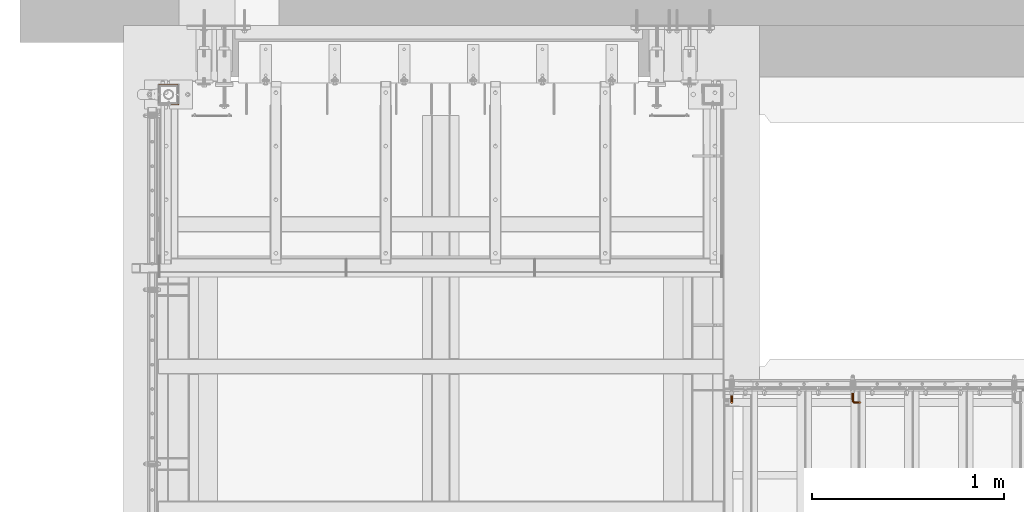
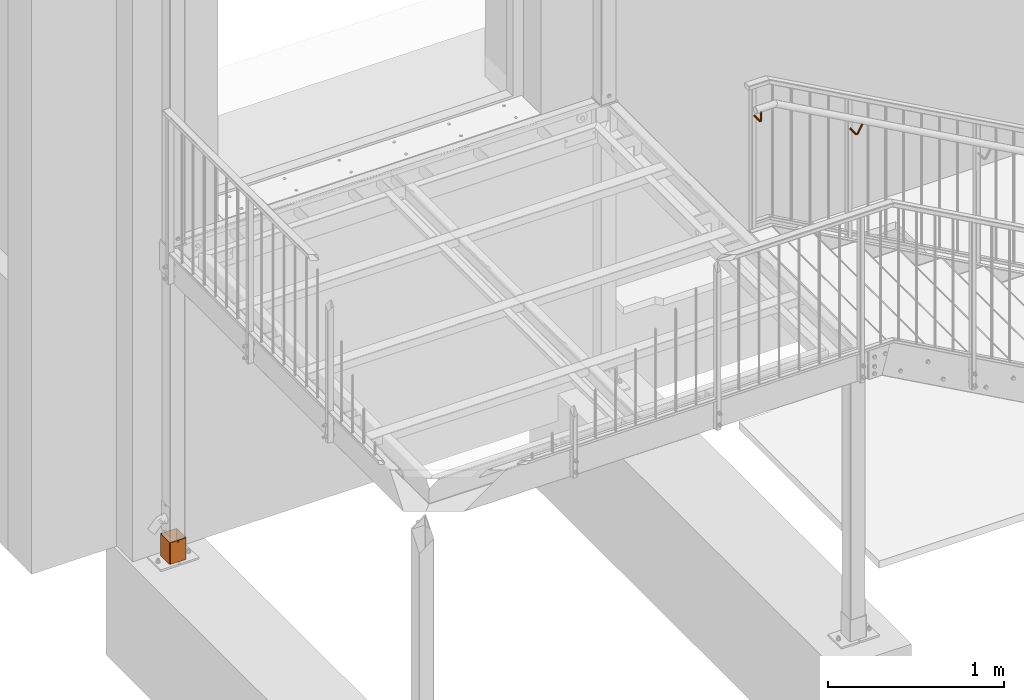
# One storey, part 92 of 116: 3 proxies.
"""IFC2X3 building model written with IfcOpenShell, lengths in millimetres."""

from ifc_helpers import new_model, entity, si_unit, converted_unit, origin_with_axes, place, context, project, spatial, faceted_brep, material, element, save


model = new_model("IFC2X3")

# Units and contexts
model_context = context("Model", 3, precision=1e-09, world=origin_with_axes())
ifc_project = project(units=[si_unit("LENGTHUNIT", "METRE", prefix="MILLI"), si_unit("AREAUNIT", "SQUARE_METRE"), si_unit("VOLUMEUNIT", "CUBIC_METRE"), converted_unit("PLANEANGLEUNIT", "DEGREE", entity("IfcPlaneAngleMeasure", 0.01745329), si_unit("PLANEANGLEUNIT", "RADIAN"), dimensions=[0, 0, 0, 0, 0, 0, 0])], contexts=[model_context])

# Site, building, storey
site_placement = place(None, origin_with_axes())
site = spatial("IfcSite", under=ifc_project, at=site_placement, Name="Site", CompositionType="ELEMENT")
building_placement = place(site_placement, origin_with_axes())
building = spatial("IfcBuilding", under=site, at=building_placement, Name="Struktur 1", CompositionType="ELEMENT")
storey_placement = place(building_placement, origin_with_axes())
storey = spatial("IfcBuildingStorey", under=building, at=storey_placement, Name="Default Storey", CompositionType="ELEMENT", Elevation=0.0)

# Proxies
ifc_material = material(Name="Kein")
proxy_1_placement = place(None, origin_with_axes())
element("IfcBuildingElementProxy", 1, at=proxy_1_placement, inside=storey, material=ifc_material, ObjectType="-", context=model_context, shape_type="Brep", body=[
    faceted_brep([(55283.120931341, 12013.358883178, -2185.0), (55283.120931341, 12013.358883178, -2035.0), (55286.049134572, 12016.287086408, -2035.0), (55286.049134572, 12016.287086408, -2185.0), (55282.049134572, 12009.358883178, -2035.0), (55282.049134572, 11915.358883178, -2035.0), (55283.120931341, 11911.358883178, -2035.0), (55286.049134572, 11908.430679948, -2035.0), (55290.049134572, 11907.358883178, -2035.0), (55384.049134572, 11907.358883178, -2035.0), (55388.049134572, 11908.430679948, -2035.0), (55390.977337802, 11911.358883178, -2035.0), (55392.049134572, 11915.358883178, -2035.0), (55392.049134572, 12009.358883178, -2035.0), (55390.977337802, 12013.358883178, -2035.0), (55388.049134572, 12016.287086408, -2035.0), (55384.049134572, 12017.358883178, -2035.0), (55290.049134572, 12017.358883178, -2035.0), (55286.049134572, 12009.358883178, -2035.0), (55286.585032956, 12011.358883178, -2035.0), (55288.049134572, 12012.822984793, -2035.0), (55290.049134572, 12013.358883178, -2035.0), (55384.049134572, 12013.358883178, -2035.0), (55386.049134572, 12012.822984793, -2035.0), (55387.513236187, 12011.358883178, -2035.0), (55388.049134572, 12009.358883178, -2035.0), (55388.049134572, 11915.358883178, -2035.0), (55387.513236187, 11913.358883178, -2035.0), (55386.049134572, 11911.894781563, -2035.0), (55384.049134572, 11911.358883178, -2035.0), (55290.049134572, 11911.358883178, -2035.0), (55288.049134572, 11911.894781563, -2035.0), (55286.585032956, 11913.358883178, -2035.0), (55286.049134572, 11915.358883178, -2035.0), (55288.049134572, 12012.822984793, -2185.0), (55286.585032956, 12011.358883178, -2185.0), (55282.049134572, 11915.358883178, -2185.0), (55282.049134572, 12009.358883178, -2185.0), (55290.049134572, 12017.358883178, -2185.0), (55384.049134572, 12017.358883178, -2185.0), (55388.049134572, 12016.287086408, -2185.0), (55390.977337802, 12013.358883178, -2185.0), (55392.049134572, 12009.358883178, -2185.0), (55392.049134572, 11915.358883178, -2185.0), (55390.977337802, 11911.358883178, -2185.0), (55388.049134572, 11908.430679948, -2185.0), (55384.049134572, 11907.358883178, -2185.0), (55290.049134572, 11907.358883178, -2185.0), (55286.049134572, 11908.430679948, -2185.0), (55283.120931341, 11911.358883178, -2185.0), (55286.049134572, 12009.358883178, -2185.0), (55286.049134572, 11915.358883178, -2185.0), (55286.585032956, 11913.358883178, -2185.0), (55288.049134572, 11911.894781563, -2185.0), (55290.049134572, 11911.358883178, -2185.0), (55384.049134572, 11911.358883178, -2185.0), (55386.049134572, 11911.894781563, -2185.0), (55387.513236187, 11913.358883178, -2185.0), (55388.049134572, 11915.358883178, -2185.0), (55388.049134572, 12009.358883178, -2185.0), (55387.513236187, 12011.358883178, -2185.0), (55386.049134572, 12012.822984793, -2185.0), (55384.049134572, 12013.358883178, -2185.0), (55290.049134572, 12013.358883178, -2185.0), (55332.048134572, 11907.358883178, -2045.0), (55332.048134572, 11911.358883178, -2045.0), (55332.718141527, 11911.358883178, -2042.4995), (55332.718141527, 11907.358883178, -2042.4995), (55332.718141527, 11907.358883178, -2047.5005), (55332.718141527, 11911.358883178, -2047.5005), (55334.548634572, 11911.358883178, -2040.669006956), (55334.548634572, 11907.358883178, -2040.669006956), (55334.548634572, 11907.358883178, -2049.330993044), (55337.049134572, 11907.358883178, -2039.999), (55339.549634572, 11907.358883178, -2040.669006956), (55341.380127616, 11907.358883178, -2042.4995), (55342.050134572, 11907.358883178, -2045.0), (55341.380127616, 11907.358883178, -2047.5005), (55339.549634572, 11907.358883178, -2049.330993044), (55337.049134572, 11907.358883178, -2050.001), (55334.548634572, 11911.358883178, -2049.330993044), (55337.049134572, 11911.358883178, -2050.001), (55339.549634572, 11911.358883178, -2049.330993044), (55341.380127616, 11911.358883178, -2047.5005), (55342.050134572, 11911.358883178, -2045.0), (55341.380127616, 11911.358883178, -2042.4995), (55339.549634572, 11911.358883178, -2040.669006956), (55337.049134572, 11911.358883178, -2039.999)], [[[0, 1, 2, 3]], [[1, 4, 5, 6, 7, 8, 9, 10, 11, 12, 13, 14, 15, 16, 17, 2], [18, 19, 20, 21, 22, 23, 24, 25, 26, 27, 28, 29, 30, 31, 32, 33]], [[34, 20, 19, 35]], [[36, 37, 0, 3, 38, 39, 40, 41, 42, 43, 44, 45, 46, 47, 48, 49], [35, 50, 51, 52, 53, 54, 55, 56, 57, 58, 59, 60, 61, 62, 63, 34]], [[1, 0, 37, 4]], [[20, 34, 63, 21]], [[3, 2, 17, 38]], [[35, 19, 18, 50]], [[37, 36, 5, 4]], [[63, 62, 22, 21]], [[17, 16, 39, 38]], [[18, 33, 51, 50]], [[5, 36, 49, 6]], [[22, 62, 61, 23]], [[39, 16, 15, 40]], [[64, 65, 66, 67]], [[51, 33, 32, 52]], [[65, 64, 68, 69]], [[67, 66, 70, 71]], [[8, 47, 46, 9], [72, 68, 64, 67, 71, 73, 74, 75, 76, 77, 78, 79]], [[6, 49, 48, 7]], [[52, 32, 31, 53]], [[30, 29, 55, 54], [70, 66, 65, 69, 80, 81, 82, 83, 84, 85, 86, 87]], [[23, 61, 60, 24]], [[40, 15, 14, 41]], [[71, 70, 87, 73]], [[73, 87, 86, 74]], [[30, 54, 53, 31]], [[69, 68, 72, 80]], [[74, 86, 85, 75]], [[7, 48, 47, 8]], [[80, 72, 79, 81]], [[81, 79, 78, 82]], [[24, 60, 59, 25]], [[41, 14, 13, 42]], [[75, 85, 84, 76]], [[83, 77, 76, 84]], [[82, 78, 77, 83]], [[59, 58, 26, 25]], [[13, 12, 43, 42]], [[26, 58, 57, 27]], [[55, 29, 28, 56]], [[56, 28, 27, 57]], [[43, 12, 11, 44]], [[9, 46, 45, 10]], [[44, 11, 10, 45]]]),
])
proxy_2_placement = place(None, origin_with_axes())
element("IfcBuildingElementProxy", 2, at=proxy_2_placement, inside=storey, material=ifc_material, ObjectType="-", context=model_context, shape_type="Brep", body=[
    faceted_brep([(58900.791716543, 10368.469581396, 463.243112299), (58902.839032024, 10369.617631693, 465.276988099), (58904.416186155, 10364.75128146, 468.120477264), (58902.684301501, 10362.629961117, 466.655299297), (58900.127129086, 10375.357883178, 462.044911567), (58902.285209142, 10375.357883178, 464.278487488), (58903.480431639, 10370.76568199, 468.090661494), (58903.037373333, 10375.357883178, 467.291861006), (58897.887061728, 10367.629150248, 462.534009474), (58897.141388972, 10375.357883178, 461.189618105), (58900.010558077, 10361.077046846, 466.36251218), (58905.516755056, 10358.728051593, 471.761998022), (58903.18859495, 10356.699071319, 472.092271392), (58906.776564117, 10361.499690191, 472.376059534), (58904.742154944, 10366.872601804, 470.365452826), (58902.182079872, 10375.357883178, 470.277601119), (58902.54405288, 10371.606113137, 470.930210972), (58906.937345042, 10355.161730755, 478.85098321), (58904.313870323, 10354.357883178, 480.306105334), (58900.41591242, 10355.956412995, 473.278383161), (58933.416312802, 10354.357883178, 532.775599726), (58936.039787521, 10355.161730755, 531.320477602), (58930.792838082, 10355.161730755, 534.23072185), (58901.690395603, 10355.161730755, 481.761227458), (58897.141388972, 10435.357883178, 461.189618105), (58900.127129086, 10435.357883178, 462.044911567), (58894.128015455, 10375.357883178, 461.941782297), (58894.128015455, 10435.357883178, 461.941782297), (58903.037373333, 10435.357883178, 467.291861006), (58902.182079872, 10435.357883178, 470.277601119), (58902.285209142, 10435.357883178, 464.278487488), (58908.857861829, 10357.357883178, 477.785759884), (58909.560819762, 10360.357883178, 477.395861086), (58899.948503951, 10435.357883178, 472.435681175), (58899.948503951, 10375.357883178, 472.435681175), (58937.960304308, 10363.357883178, 530.255254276), (58936.039787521, 10365.554035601, 531.320477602), (58933.416312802, 10366.357883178, 532.775599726), (58930.792838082, 10365.554035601, 534.23072185), (58928.872321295, 10363.357883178, 535.295945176), (58928.169363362, 10360.357883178, 535.685843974), (58928.872321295, 10357.357883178, 535.295945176), (58937.960304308, 10357.357883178, 530.255254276), (58938.663262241, 10360.357883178, 529.865355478), (58897.941645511, 10356.699071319, 475.00251564), (58897.111383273, 10360.508640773, 467.320567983), (58893.94939032, 10435.357883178, 472.332551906), (58896.935130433, 10435.357883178, 473.187845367), (58891.894439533, 10435.357883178, 464.099862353), (58891.039146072, 10435.357883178, 467.085602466), (58891.791310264, 10435.357883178, 470.098975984), (58894.903367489, 10367.321531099, 463.339683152), (58906.630457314, 10364.271328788, 473.769918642), (58908.857861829, 10363.357883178, 477.785759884), (58903.574864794, 10368.425516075, 472.788686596), (58900.28079768, 10371.913732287, 473.034781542), (58899.769878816, 10357.357883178, 482.826450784), (58891.894439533, 10375.357883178, 464.099862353), (58896.935130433, 10375.357883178, 473.187845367), (58896.428772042, 10358.728051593, 476.802688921), (58894.763608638, 10361.077046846, 469.272756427), (58892.640112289, 10367.629150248, 465.444253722), (58906.937345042, 10365.554035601, 478.85098321), (58905.117583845, 10366.300309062, 475.570091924), (58901.227090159, 10368.993922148, 474.740875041), (58897.297103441, 10371.606113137, 473.84045522), (58899.066920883, 10360.357883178, 483.216349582), (58891.039146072, 10375.357883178, 467.085602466), (58893.94939032, 10375.357883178, 472.332551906), (58891.791310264, 10375.357883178, 470.098975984), (58904.313870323, 10366.357883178, 480.306105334), (58896.282665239, 10361.499690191, 478.19654803), (58893.596318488, 10362.629961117, 471.695990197), (58891.70373353, 10368.469581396, 468.283803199), (58902.643316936, 10367.042967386, 477.294224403), (58898.327915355, 10368.425516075, 475.698930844), (58894.392448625, 10370.76568199, 473.131352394), (58899.769878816, 10363.357883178, 482.826450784), (58892.345133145, 10369.617631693, 471.097476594), (58901.690395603, 10365.554035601, 481.761227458), (58897.5424743, 10364.271328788, 478.810609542), (58893.922287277, 10364.75128146, 473.940965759), (58899.870634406, 10366.300309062, 478.480336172), (58895.654171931, 10366.872601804, 475.406143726)], [[[0, 1, 2, 3]], [[1, 0, 4, 5]], [[6, 1, 5, 7]], [[0, 8, 9, 4]], [[3, 10, 8, 0]], [[11, 12, 10, 3]], [[3, 2, 13, 11]], [[1, 6, 14, 2]], [[7, 15, 16, 6]], [[17, 18, 19, 12]], [[20, 18, 17, 21]], [[18, 20, 22, 23]], [[9, 24, 25, 4]], [[24, 9, 26, 27]], [[7, 28, 29, 15]], [[5, 30, 28, 7]], [[4, 25, 30, 5]], [[12, 11, 31, 17]], [[11, 13, 32, 31]], [[15, 29, 33, 34]], [[35, 36, 37, 38, 39, 40, 41, 22, 20, 21, 42, 43]], [[18, 23, 44, 19]], [[12, 19, 45, 10]], [[46, 47, 33, 29, 28, 30, 25, 24, 27, 48, 49, 50]], [[8, 51, 26, 9]], [[10, 45, 51, 8]], [[2, 14, 52, 13]], [[13, 52, 53, 32]], [[6, 16, 54, 14]], [[15, 34, 55, 16]], [[21, 17, 31, 42]], [[23, 22, 41, 56]], [[27, 26, 57, 48]], [[32, 43, 42, 31]], [[53, 35, 43, 32]], [[34, 33, 47, 58]], [[23, 56, 59, 44]], [[19, 44, 60, 45]], [[51, 61, 57, 26]], [[45, 60, 61, 51]], [[35, 53, 62, 36]], [[14, 54, 63, 52]], [[52, 63, 62, 53]], [[16, 55, 64, 54]], [[34, 58, 65, 55]], [[56, 41, 40, 66]], [[48, 57, 67, 49]], [[46, 68, 58, 47]], [[50, 69, 68, 46]], [[49, 67, 69, 50]], [[36, 62, 70, 37]], [[56, 66, 71, 59]], [[44, 59, 72, 60]], [[61, 73, 67, 57]], [[60, 72, 73, 61]], [[63, 74, 70, 62]], [[54, 64, 74, 63]], [[55, 65, 75, 64]], [[58, 68, 76, 65]], [[66, 40, 39, 77]], [[68, 69, 78, 76]], [[69, 67, 73, 78]], [[38, 79, 77, 39]], [[37, 70, 79, 38]], [[66, 77, 80, 71]], [[59, 71, 81, 72]], [[72, 81, 78, 73]], [[74, 82, 79, 70]], [[64, 75, 82, 74]], [[65, 76, 83, 75]], [[76, 78, 81, 83]], [[77, 79, 82, 80]], [[71, 80, 83, 81]], [[75, 83, 80, 82]]]),
])
proxy_3_placement = place(None, origin_with_axes())
element("IfcBuildingElementProxy", 3, at=proxy_3_placement, inside=storey, material=ifc_material, ObjectType="-", context=model_context, shape_type="Brep", body=[
    faceted_brep([(58272.233191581, 10368.469581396, 775.959235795), (58273.039112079, 10369.617631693, 778.730272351), (58273.041544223, 10364.75128146, 781.981862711), (58272.236110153, 10362.629961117, 779.861144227), (58272.232166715, 10375.357883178, 774.589067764), (58273.038258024, 10375.357883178, 777.588465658), (58272.237337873, 10370.76568199, 781.502511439), (58272.236654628, 10375.357883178, 780.589066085), (58270.035522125, 10367.629150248, 773.931898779), (58270.034372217, 10375.357883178, 772.394558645), (58270.038796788, 10361.077046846, 778.309873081), (58272.240478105, 10358.728051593, 785.700762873), (58270.043697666, 10356.699071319, 784.861974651), (58273.045184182, 10361.499690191, 786.848211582), (58272.239283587, 10366.872601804, 784.103783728), (58270.04214551, 10375.357883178, 782.786860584), (58270.042703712, 10371.606113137, 783.533133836), (58270.049478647, 10355.161730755, 792.590705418), (58267.049479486, 10354.357883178, 792.592949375), (58267.043468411, 10355.956412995, 784.556599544), (58267.094358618, 10354.357883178, 852.592932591), (58270.094357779, 10355.161730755, 852.590688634), (58264.094359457, 10355.161730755, 852.595176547), (58264.049480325, 10355.161730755, 792.595193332), (58270.034372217, 10435.357883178, 772.394558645), (58272.232166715, 10435.357883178, 774.589067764), (58267.03377179, 10375.357883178, 771.59295525), (58267.03377179, 10435.357883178, 771.59295525), (58272.236654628, 10435.357883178, 780.589066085), (58270.04214551, 10435.357883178, 782.786860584), (58273.038258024, 10435.357883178, 777.588465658), (58272.245630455, 10357.357883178, 792.589062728), (58273.049477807, 10360.357883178, 792.588461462), (58267.042747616, 10435.357883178, 783.592951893), (58267.042747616, 10375.357883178, 783.592951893), (58272.290509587, 10363.357883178, 852.589045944), (58270.094357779, 10365.554035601, 852.590688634), (58267.094358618, 10366.357883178, 852.592932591), (58264.094359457, 10365.554035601, 852.595176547), (58261.898207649, 10363.357883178, 852.596819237), (58261.094360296, 10360.357883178, 852.597420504), (58261.898207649, 10357.357883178, 852.596819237), (58272.290509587, 10357.357883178, 852.589045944), (58273.09435694, 10360.357883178, 852.588444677), (58264.043699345, 10356.699071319, 784.866462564), (58267.038372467, 10360.508640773, 777.743711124), (58261.84435269, 10435.357883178, 780.596839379), (58264.042147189, 10435.357883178, 782.791348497), (58264.034373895, 10435.357883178, 772.399046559), (58261.839864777, 10435.357883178, 774.596841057), (58261.038261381, 10435.357883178, 777.597441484), (58267.034967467, 10367.321531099, 773.19148462), (58272.242195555, 10364.271328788, 787.996862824), (58272.245630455, 10363.357883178, 792.589062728), (58270.044293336, 10368.425516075, 785.658340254), (58267.043260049, 10371.913732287, 784.278035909), (58261.853328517, 10357.357883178, 792.596836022), (58264.034373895, 10375.357883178, 772.399046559), (58264.042147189, 10375.357883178, 782.791348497), (58261.848176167, 10358.728051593, 785.708536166), (58264.038798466, 10361.077046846, 778.314360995), (58264.035523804, 10367.629150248, 773.936386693), (58270.049478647, 10365.554035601, 792.590705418), (58270.046672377, 10366.300309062, 788.838936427), (58267.044719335, 10368.993922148, 786.228990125), (58264.042705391, 10371.606113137, 783.537621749), (58261.049481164, 10360.357883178, 792.597437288), (58261.839864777, 10375.357883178, 774.596841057), (58261.84435269, 10375.357883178, 780.596839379), (58261.038261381, 10375.357883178, 777.597441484), (58267.049479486, 10366.357883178, 792.592949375), (58261.045187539, 10361.499690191, 786.857187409), (58261.843808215, 10362.629961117, 779.868917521), (58261.840889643, 10368.469581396, 775.967009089), (58267.046903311, 10367.042967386, 789.148799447), (58264.044295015, 10368.425516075, 785.662828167), (58261.845035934, 10370.76568199, 781.510284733), (58261.853328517, 10363.357883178, 792.596836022), (58261.039115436, 10369.617631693, 778.739248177), (58264.049480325, 10365.554035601, 792.595193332), (58261.849893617, 10364.271328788, 788.004636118), (58261.04154758, 10364.75128146, 781.990838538), (58264.046674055, 10366.300309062, 788.84342434), (58261.846981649, 10366.872601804, 784.111557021)], [[[0, 1, 2, 3]], [[1, 0, 4, 5]], [[6, 1, 5, 7]], [[0, 8, 9, 4]], [[3, 10, 8, 0]], [[11, 12, 10, 3]], [[3, 2, 13, 11]], [[1, 6, 14, 2]], [[7, 15, 16, 6]], [[17, 18, 19, 12]], [[20, 18, 17, 21]], [[18, 20, 22, 23]], [[9, 24, 25, 4]], [[24, 9, 26, 27]], [[7, 28, 29, 15]], [[5, 30, 28, 7]], [[4, 25, 30, 5]], [[12, 11, 31, 17]], [[11, 13, 32, 31]], [[15, 29, 33, 34]], [[35, 36, 37, 38, 39, 40, 41, 22, 20, 21, 42, 43]], [[18, 23, 44, 19]], [[12, 19, 45, 10]], [[46, 47, 33, 29, 28, 30, 25, 24, 27, 48, 49, 50]], [[8, 51, 26, 9]], [[10, 45, 51, 8]], [[2, 14, 52, 13]], [[13, 52, 53, 32]], [[6, 16, 54, 14]], [[15, 34, 55, 16]], [[21, 17, 31, 42]], [[23, 22, 41, 56]], [[27, 26, 57, 48]], [[32, 43, 42, 31]], [[53, 35, 43, 32]], [[34, 33, 47, 58]], [[23, 56, 59, 44]], [[19, 44, 60, 45]], [[51, 61, 57, 26]], [[45, 60, 61, 51]], [[35, 53, 62, 36]], [[14, 54, 63, 52]], [[52, 63, 62, 53]], [[16, 55, 64, 54]], [[34, 58, 65, 55]], [[56, 41, 40, 66]], [[48, 57, 67, 49]], [[46, 68, 58, 47]], [[50, 69, 68, 46]], [[49, 67, 69, 50]], [[36, 62, 70, 37]], [[56, 66, 71, 59]], [[44, 59, 72, 60]], [[61, 73, 67, 57]], [[60, 72, 73, 61]], [[63, 74, 70, 62]], [[54, 64, 74, 63]], [[55, 65, 75, 64]], [[58, 68, 76, 65]], [[66, 40, 39, 77]], [[68, 69, 78, 76]], [[69, 67, 73, 78]], [[38, 79, 77, 39]], [[37, 70, 79, 38]], [[66, 77, 80, 71]], [[59, 71, 81, 72]], [[72, 81, 78, 73]], [[74, 82, 79, 70]], [[64, 75, 82, 74]], [[65, 76, 83, 75]], [[76, 78, 81, 83]], [[77, 79, 82, 80]], [[71, 80, 83, 81]], [[75, 83, 80, 82]]]),
])

save(model, "model.ifc")
